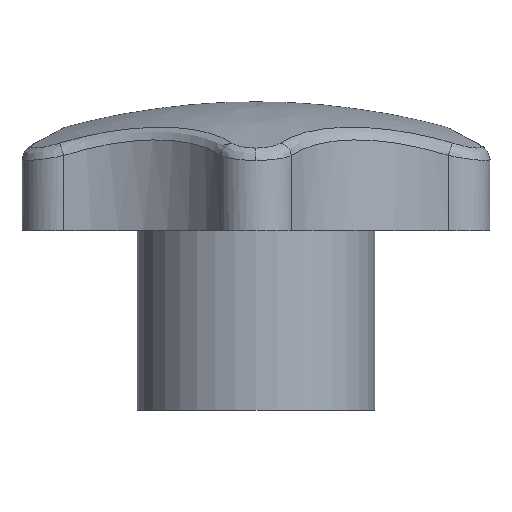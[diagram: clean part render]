
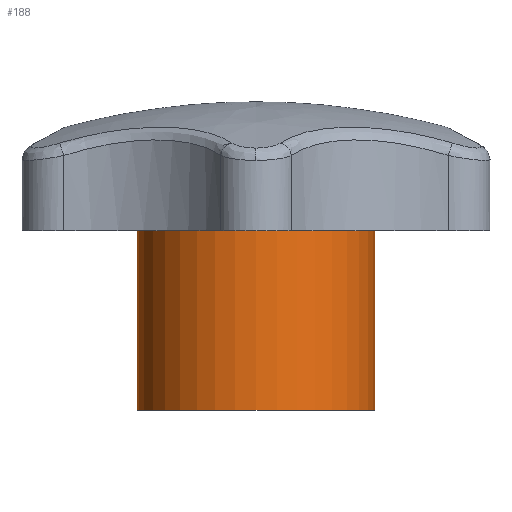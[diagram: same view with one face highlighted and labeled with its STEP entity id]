
A CAD part, left-side view. The second image highlights one B-rep face of the part: STEP entity #188.
In plain terms, the highlighted cylindrical face has radius 18 mm (diameter 36 mm), a full revolution.
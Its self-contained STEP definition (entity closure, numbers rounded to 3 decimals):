
#152=CARTESIAN_POINT('',(-18.,0.,27.2));
#153=VERTEX_POINT('',#152);
#154=CARTESIAN_POINT('',(0.,0.,27.2));
#155=DIRECTION('',(-1.,0.,0.));
#156=DIRECTION('',(0.,0.,1.));
#157=AXIS2_PLACEMENT_3D('',#154,#156,#155);
#158=CIRCLE('',#157,18.);
#159=EDGE_CURVE('',#153,#153,#158,.T.);
#164=CARTESIAN_POINT('',(0.,0.,27.2));
#165=DIRECTION('',(-1.,0.,0.));
#166=DIRECTION('',(0.,0.,-1.));
#167=AXIS2_PLACEMENT_3D('',#164,#166,#165);
#168=CYLINDRICAL_SURFACE('',#167,18.);
#169=CARTESIAN_POINT('',(-18.,0.,0.));
#170=VERTEX_POINT('',#169);
#171=CARTESIAN_POINT('',(-18.,0.,27.2));
#172=DIRECTION('',(0.,0.,-1.));
#173=VECTOR('',#172,27.2);
#174=LINE('',#171,#173);
#175=EDGE_CURVE('',#153,#170,#174,.T.);
#176=ORIENTED_EDGE('E55',*,*,#175,.T.);
#177=CARTESIAN_POINT('',(0.,0.,0.));
#178=DIRECTION('',(-1.,0.,-0.));
#179=DIRECTION('',(0.,0.,1.));
#180=AXIS2_PLACEMENT_3D('',#177,#179,#178);
#181=CIRCLE('',#180,18.);
#182=EDGE_CURVE('',#170,#170,#181,.T.);
#183=ORIENTED_EDGE('E57',*,*,#182,.T.);
#184=ORIENTED_EDGE('E57',*,*,#175,.F.);
#185=ORIENTED_EDGE('E57',*,*,#159,.F.);
#186=EDGE_LOOP('',(#176,#183,#184,#185));
#187=FACE_OUTER_BOUND('',#186,.T.);
#188=ADVANCED_FACE('F50',(#187),#168,.T.);
